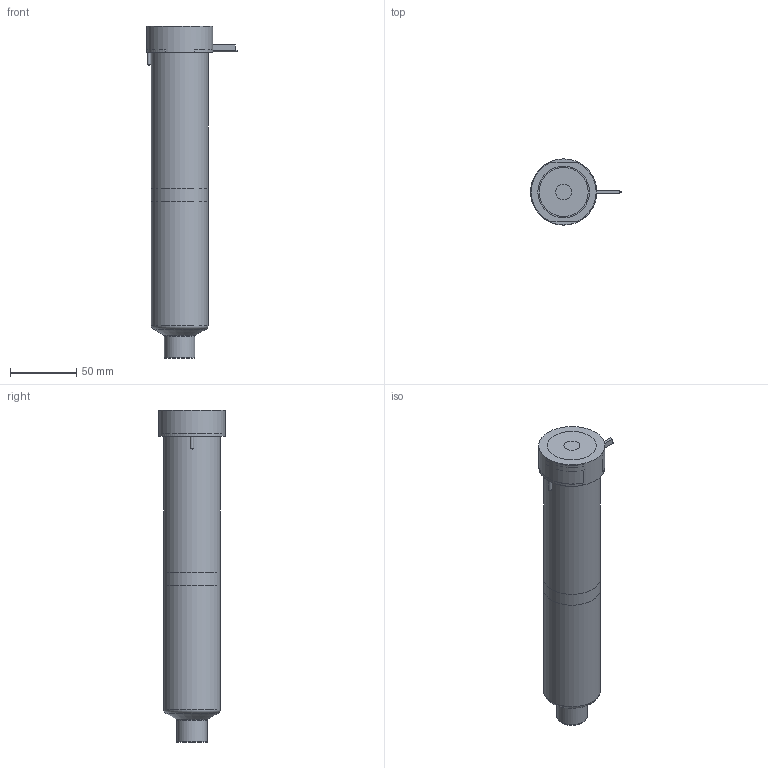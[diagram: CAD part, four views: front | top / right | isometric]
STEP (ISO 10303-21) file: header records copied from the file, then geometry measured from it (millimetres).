
FILE_DESCRIPTION(/* description */ (''),/* implementation_level */ '2;1');
FILE_NAME(/* name */ 'BXTSN-BXISN-BXOSN27225_200C_b',/* time_stamp */ '2007-01-25T15:53:03+13:00',/* author */ (''),/* organization */ (''),/* preprocessor_version */ 'ST-DEVELOPER v9',/* originating_system */ 'UGS - NX 4.0',/* authorisation */ '');
FILE_SCHEMA (('CONFIG_CONTROL_DESIGN'));
Length unit declared in the file: millimetre
Products named in the file (1): BXTSN-BXISN-BXOSN27225_200C_b
Bounding box: 68.6 x 50 x 250.81 mm (x, y, z)
Volume: 648172.5 mm3; surface area: 75755.1 mm2
Topology: 6 solids, 6 shells, 74 faces, 148 edges, 96 vertices
Faces by surface type: plane 33, cylinder 23, cone 9, torus 8, bspline 1
Full cylindrical faces by diameter (mm): 1 x3, 2 x1, 2.5 x2, 12 x1, 22.61 x1, 23.01 x2, 27.5 x1, 38.1 x1, 43 x2, 50 x1
Entity records: 1987 total; most frequent: CARTESIAN_POINT 481, DIRECTION 312, ORIENTED_EDGE 230, AXIS2_PLACEMENT_3D 137, EDGE_CURVE 115, EDGE_LOOP 110, VERTEX_POINT 90, ADVANCED_FACE 74
